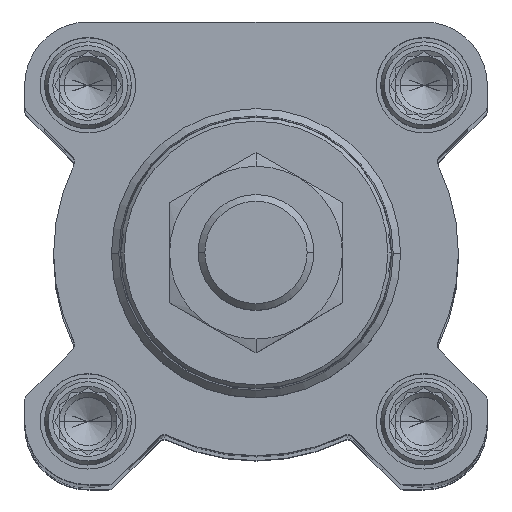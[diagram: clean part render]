
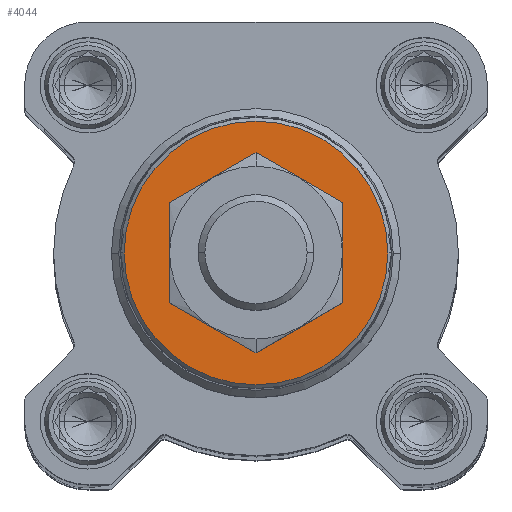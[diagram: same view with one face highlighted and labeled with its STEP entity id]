
A CAD part, top view. The second image highlights one B-rep face of the part: STEP entity #4044.
In plain terms, the highlighted planar face has unit normal (0, 0, 1).
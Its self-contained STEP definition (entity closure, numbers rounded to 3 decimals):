
#540 = CIRCLE ( 'NONE', #7683, 18.242 ) ;
#877 = EDGE_LOOP ( 'NONE', ( #23324, #21777 ) ) ;
#1416 = PLANE ( 'NONE',  #19260 ) ;
#1819 = CARTESIAN_POINT ( 'NONE',  ( -10., 0., 46.8 ) ) ;
#2360 = VERTEX_POINT ( 'NONE', #14005 ) ;
#2423 = CARTESIAN_POINT ( 'NONE',  ( 0., 0., 46.8 ) ) ;
#2677 = CARTESIAN_POINT ( 'NONE',  ( 0., 0., 46.8 ) ) ;
#3505 = CARTESIAN_POINT ( 'NONE',  ( 0., 0., 46.8 ) ) ;
#4044 = ADVANCED_FACE ( 'NONE', ( #5764, #14982 ), #1416, .F. ) ;
#4174 = CIRCLE ( 'NONE', #29011, 10. ) ;
#5331 = EDGE_CURVE ( 'NONE', #16198, #21246, #24486, .T. ) ;
#5651 = CARTESIAN_POINT ( 'NONE',  ( 0., 0., 46.8 ) ) ;
#5764 = FACE_OUTER_BOUND ( 'NONE', #877, .T. ) ;
#7683 = AXIS2_PLACEMENT_3D ( 'NONE', #2423, #25178, #29062 ) ;
#7859 = DIRECTION ( 'NONE',  ( 0., 0., -1. ) ) ;
#8204 = VERTEX_POINT ( 'NONE', #13556 ) ;
#8666 = AXIS2_PLACEMENT_3D ( 'NONE', #2677, #27672, #25271 ) ;
#12198 = ORIENTED_EDGE ( 'NONE', *, *, #5331, .T. ) ;
#13304 = CARTESIAN_POINT ( 'NONE',  ( 10., 0., 46.8 ) ) ;
#13556 = CARTESIAN_POINT ( 'NONE',  ( 18.242, 0., 46.8 ) ) ;
#13723 = EDGE_CURVE ( 'NONE', #8204, #2360, #540, .T. ) ;
#13860 = EDGE_LOOP ( 'NONE', ( #12198, #23455 ) ) ;
#14005 = CARTESIAN_POINT ( 'NONE',  ( -18.242, 0., 46.8 ) ) ;
#14982 = FACE_BOUND ( 'NONE', #13860, .T. ) ;
#16198 = VERTEX_POINT ( 'NONE', #1819 ) ;
#16844 = EDGE_CURVE ( 'NONE', #2360, #8204, #26688, .T. ) ;
#16847 = DIRECTION ( 'NONE',  ( -1., 0., 0. ) ) ;
#17625 = AXIS2_PLACEMENT_3D ( 'NONE', #5651, #7859, #16847 ) ;
#19260 = AXIS2_PLACEMENT_3D ( 'NONE', #3505, #28778, #21936 ) ;
#19482 = DIRECTION ( 'NONE',  ( 0., 0., -1. ) ) ;
#19637 = CARTESIAN_POINT ( 'NONE',  ( 0., 0., 46.8 ) ) ;
#21246 = VERTEX_POINT ( 'NONE', #13304 ) ;
#21528 = EDGE_CURVE ( 'NONE', #21246, #16198, #4174, .T. ) ;
#21777 = ORIENTED_EDGE ( 'NONE', *, *, #13723, .F. ) ;
#21936 = DIRECTION ( 'NONE',  ( 0., -1., 0. ) ) ;
#23324 = ORIENTED_EDGE ( 'NONE', *, *, #16844, .F. ) ;
#23455 = ORIENTED_EDGE ( 'NONE', *, *, #21528, .T. ) ;
#23980 = DIRECTION ( 'NONE',  ( -1., 0., 0. ) ) ;
#24486 = CIRCLE ( 'NONE', #8666, 10. ) ;
#25178 = DIRECTION ( 'NONE',  ( 0., 0., -1. ) ) ;
#25271 = DIRECTION ( 'NONE',  ( -1., 0., 0. ) ) ;
#26688 = CIRCLE ( 'NONE', #17625, 18.242 ) ;
#27672 = DIRECTION ( 'NONE',  ( 0., 0., -1. ) ) ;
#28778 = DIRECTION ( 'NONE',  ( 0., 0., -1. ) ) ;
#29011 = AXIS2_PLACEMENT_3D ( 'NONE', #19637, #19482, #23980 ) ;
#29062 = DIRECTION ( 'NONE',  ( -1., 0., 0. ) ) ;
